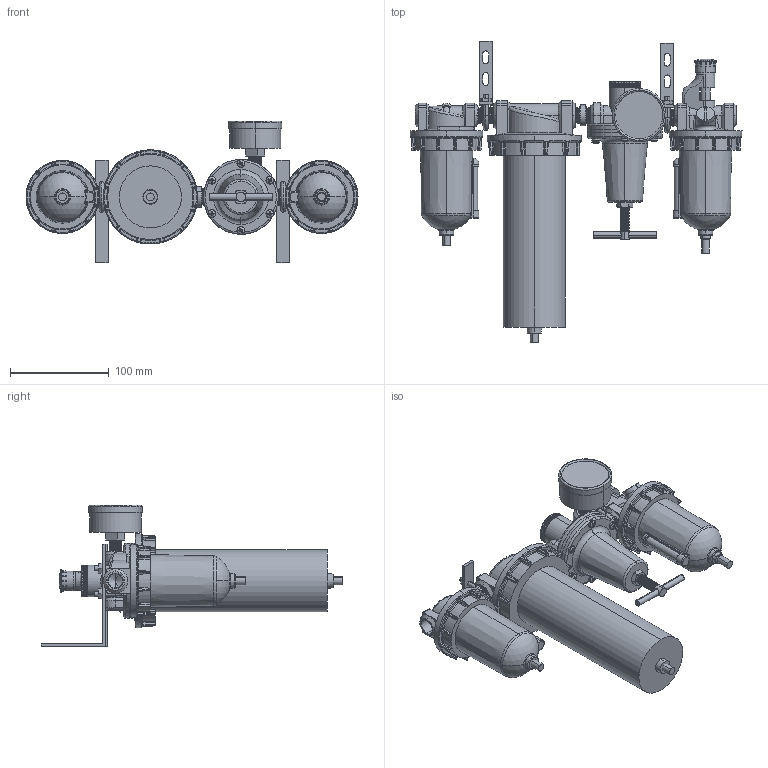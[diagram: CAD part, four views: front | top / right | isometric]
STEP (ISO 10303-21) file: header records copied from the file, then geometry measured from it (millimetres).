
FILE_DESCRIPTION (( 'STEP AP203' ), '1' );
FILE_NAME ('A728#W#-03YB#.STEP', '2016-02-16T02:37:24', ( '' ), ( '' ), 'SwSTEP 2.0', 'SolidWorks 2014', '' );
FILE_SCHEMA (( 'CONFIG_CONTROL_DESIGN' ));
Length unit declared in the file: millimetre
Products named in the file (28): 50-P-AD=1-4PT-1; R119-02-4; L606-W-06-5; A728#W#-03YB#; R119-02-1; R119-02-6; L606-W-04-1; R119-02-7; 50-P-AD=1-4PT.SLDPRT; L606-W-06-3; L606-W-06-4; ISO 7045 - M4 x 16; F602W-03#YB#; R119-02-2; 50-P-AD=1-4PT-2; H604D-03YB#; R119-02-5; H604D-02-1
Assembly tree (40 placements, depth 4):
  A728#W#-03YB#
    (unnamed)  x3
    F602W-03#YB#
      (unnamed)
      L606-W-06-5
      (unnamed)
      (unnamed)
    H604D-03YB#
      L606-W-06-5
      H604D-02-1
      (unnamed)
    (unnamed)
      L606-W-06-5
      L606-W-06-4
      L606-W-06-3  x2
      L606-W-04-1
      (unnamed)
      (unnamed)
    (unnamed)  x2
    (unnamed)
      R119-02-1
      R119-02-2
      (unnamed)
      R119-02-4
      ISO 7045 - M4 x 16  x7
      R119-02-5
      R119-02-6
      R119-02-7
      50-P-AD=1-4PT.SLDPRT
        50-P-AD=1-4PT-1
        50-P-AD=1-4PT-2
Bounding box: 337 x 306.51 x 144 mm (x, y, z)
Volume: 1626146.3 mm3; surface area: 246843.6 mm2
Topology: 42 solids, 42 shells, 2159 faces, 5343 edges, 3197 vertices
Faces by surface type: plane 706, cylinder 461, cone 399, bspline 335, torus 148, sphere 110
Entity records: 74944 total; most frequent: CARTESIAN_POINT 33430, ORIENTED_EDGE 8658, DIRECTION 7309, EDGE_CURVE 4329, AXIS2_PLACEMENT_3D 3031, VERTEX_POINT 2619, EDGE_LOOP 1840, ADVANCED_FACE 1787
